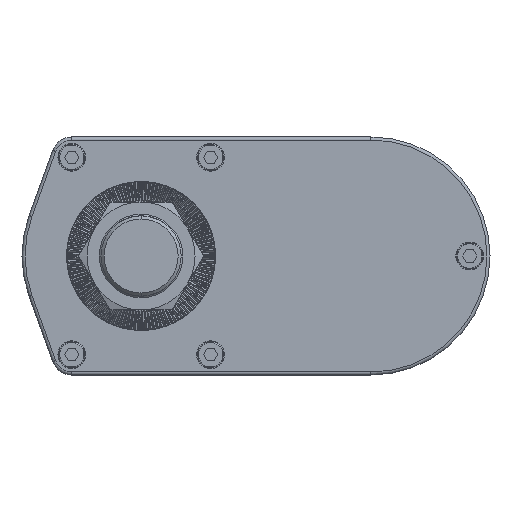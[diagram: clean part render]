
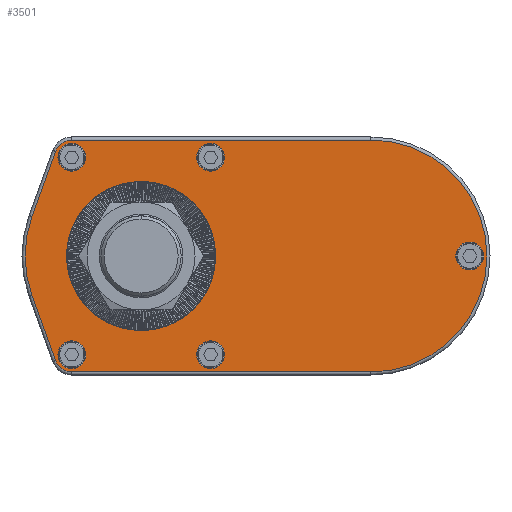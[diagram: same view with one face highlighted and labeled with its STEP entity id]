
A CAD part, left-side view. The second image highlights one B-rep face of the part: STEP entity #3501.
In plain terms, the highlighted planar face has unit normal (-1, 0, 0).
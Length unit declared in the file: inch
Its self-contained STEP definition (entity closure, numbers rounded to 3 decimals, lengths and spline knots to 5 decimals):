
#3501=ADVANCED_FACE('',(#7748,#7749,#7750,#7751,#7752,#7753,#7754),#7755,.F.);
#7748=FACE_BOUND('',#12982,.T.);
#7749=FACE_BOUND('',#12983,.T.);
#7750=FACE_BOUND('',#12984,.T.);
#7751=FACE_BOUND('',#12985,.T.);
#7752=FACE_BOUND('',#12986,.T.);
#7753=FACE_BOUND('',#12987,.T.);
#7754=FACE_OUTER_BOUND('',#12988,.T.);
#7755=PLANE('',#12989);
#12982=EDGE_LOOP('',(#23245,#23246));
#12983=EDGE_LOOP('',(#23247,#23248));
#12984=EDGE_LOOP('',(#23249,#23250));
#12985=EDGE_LOOP('',(#23251,#23252));
#12986=EDGE_LOOP('',(#23253,#23254));
#12987=EDGE_LOOP('',(#23255,#23256));
#12988=EDGE_LOOP('',(#23257,#23258,#23259,#23260,#23261,#23262,#23263,#23264));
#12989=AXIS2_PLACEMENT_3D('',#23265,#23266,#23267);
#23245=ORIENTED_EDGE('',*,*,#34001,.F.);
#23246=ORIENTED_EDGE('',*,*,#34002,.F.);
#23247=ORIENTED_EDGE('',*,*,#31767,.T.);
#23248=ORIENTED_EDGE('',*,*,#31821,.T.);
#23249=ORIENTED_EDGE('',*,*,#34003,.T.);
#23250=ORIENTED_EDGE('',*,*,#31846,.T.);
#23251=ORIENTED_EDGE('',*,*,#32815,.T.);
#23252=ORIENTED_EDGE('',*,*,#30496,.T.);
#23253=ORIENTED_EDGE('',*,*,#34004,.T.);
#23254=ORIENTED_EDGE('',*,*,#34005,.T.);
#23255=ORIENTED_EDGE('',*,*,#34006,.T.);
#23256=ORIENTED_EDGE('',*,*,#33073,.T.);
#23257=ORIENTED_EDGE('',*,*,#33621,.T.);
#23258=ORIENTED_EDGE('',*,*,#34007,.T.);
#23259=ORIENTED_EDGE('',*,*,#33814,.T.);
#23260=ORIENTED_EDGE('',*,*,#34008,.T.);
#23261=ORIENTED_EDGE('',*,*,#30362,.T.);
#23262=ORIENTED_EDGE('',*,*,#34009,.T.);
#23263=ORIENTED_EDGE('',*,*,#30993,.T.);
#23264=ORIENTED_EDGE('',*,*,#31441,.T.);
#23265=CARTESIAN_POINT('',(0.0,-2.93307,0.0));
#23266=DIRECTION('',(1.0,0.0,0.0));
#23267=DIRECTION('',(0.0,1.0,-0.0));
#30362=EDGE_CURVE('',#36280,#36278,#36281,.F.);
#30496=EDGE_CURVE('',#36514,#36512,#36515,.T.);
#30993=EDGE_CURVE('',#37356,#37360,#37362,.F.);
#31441=EDGE_CURVE('',#37360,#38094,#38096,.F.);
#31767=EDGE_CURVE('',#38612,#38616,#38618,.T.);
#31821=EDGE_CURVE('',#38616,#38612,#38703,.T.);
#31846=EDGE_CURVE('',#38740,#38738,#38741,.T.);
#32815=EDGE_CURVE('',#36512,#36514,#40203,.T.);
#33073=EDGE_CURVE('',#40575,#40573,#40576,.T.);
#33621=EDGE_CURVE('',#38094,#41327,#41329,.F.);
#33814=EDGE_CURVE('',#41583,#41581,#41584,.F.);
#34001=EDGE_CURVE('',#41820,#41821,#41822,.F.);
#34002=EDGE_CURVE('',#41821,#41820,#41823,.F.);
#34003=EDGE_CURVE('',#38738,#38740,#41824,.T.);
#34004=EDGE_CURVE('',#41825,#41826,#41827,.T.);
#34005=EDGE_CURVE('',#41826,#41825,#41828,.T.);
#34006=EDGE_CURVE('',#40573,#40575,#41829,.T.);
#34007=EDGE_CURVE('',#41327,#41583,#41830,.F.);
#34008=EDGE_CURVE('',#41581,#36280,#41831,.F.);
#34009=EDGE_CURVE('',#36278,#37356,#41832,.F.);
#36278=VERTEX_POINT('',#44539);
#36280=VERTEX_POINT('',#44541);
#36281=CIRCLE('',#44542,1.48031);
#36512=VERTEX_POINT('',#44844);
#36514=VERTEX_POINT('',#44847);
#36515=CIRCLE('',#44848,0.17717);
#37356=VERTEX_POINT('',#45967);
#37360=VERTEX_POINT('',#45971);
#37362=CIRCLE('',#45973,0.22047);
#38094=VERTEX_POINT('',#46991);
#38096=LINE('',#46993,#46994);
#38612=VERTEX_POINT('',#47733);
#38616=VERTEX_POINT('',#47738);
#38618=CIRCLE('',#47741,0.17717);
#38703=CIRCLE('',#47861,0.17717);
#38738=VERTEX_POINT('',#47906);
#38740=VERTEX_POINT('',#47909);
#38741=CIRCLE('',#47910,0.17717);
#40203=CIRCLE('',#49917,0.17717);
#40573=VERTEX_POINT('',#50414);
#40575=VERTEX_POINT('',#50417);
#40576=CIRCLE('',#50418,0.17717);
#41327=VERTEX_POINT('',#51451);
#41329=CIRCLE('',#51453,1.48031);
#41581=VERTEX_POINT('',#51779);
#41583=VERTEX_POINT('',#51781);
#41584=CIRCLE('',#51782,0.22047);
#41820=VERTEX_POINT('',#52114);
#41821=VERTEX_POINT('',#52115);
#41822=CIRCLE('',#52116,0.94882);
#41823=CIRCLE('',#52117,0.94882);
#41824=CIRCLE('',#52118,0.17717);
#41825=VERTEX_POINT('',#52119);
#41826=VERTEX_POINT('',#52120);
#41827=CIRCLE('',#52121,0.17717);
#41828=CIRCLE('',#52122,0.17717);
#41829=CIRCLE('',#52123,0.17717);
#41830=LINE('',#52124,#52125);
#41831=LINE('',#52126,#52127);
#41832=LINE('',#52128,#52129);
#44539=CARTESIAN_POINT('',(0.0,-2.93307,1.48031));
#44541=CARTESIAN_POINT('',(0.0,-2.93307,-1.48031));
#44542=AXIS2_PLACEMENT_3D('',#54957,#54958,#54959);
#44844=CARTESIAN_POINT('',(0.0,-0.8874,-1.43701));
#44847=CARTESIAN_POINT('',(0.0,-0.8874,-1.08268));
#44848=AXIS2_PLACEMENT_3D('',#55134,#55135,#55136);
#45967=CARTESIAN_POINT('',(0.0,0.88425,1.48031));
#45971=CARTESIAN_POINT('',(0.0,1.0916,1.33479));
#45973=AXIS2_PLACEMENT_3D('',#55793,#55794,#55795);
#46991=CARTESIAN_POINT('',(0.0,1.39217,0.50319));
#46993=CARTESIAN_POINT('',(0.0,1.39217,0.50319));
#46994=VECTOR('',#56338,39.37008);
#47733=CARTESIAN_POINT('',(0.0,-4.19449,-0.17717));
#47738=CARTESIAN_POINT('',(0.0,-4.19449,0.17717));
#47741=AXIS2_PLACEMENT_3D('',#56705,#56706,#56707);
#47861=AXIS2_PLACEMENT_3D('',#56758,#56759,#56760);
#47906=CARTESIAN_POINT('',(0.0,0.88425,1.08268));
#47909=CARTESIAN_POINT('',(0.0,0.88425,1.43701));
#47910=AXIS2_PLACEMENT_3D('',#56793,#56794,#56795);
#49917=AXIS2_PLACEMENT_3D('',#57960,#57961,#57962);
#50414=CARTESIAN_POINT('',(0.0,0.88425,-1.43701));
#50417=CARTESIAN_POINT('',(0.0,0.88425,-1.08268));
#50418=AXIS2_PLACEMENT_3D('',#58315,#58316,#58317);
#51451=CARTESIAN_POINT('',(0.0,1.39217,-0.50319));
#51453=AXIS2_PLACEMENT_3D('',#58997,#58998,#58999);
#51779=CARTESIAN_POINT('',(0.0,0.88425,-1.48031));
#51781=CARTESIAN_POINT('',(0.0,1.0916,-1.33479));
#51782=AXIS2_PLACEMENT_3D('',#59280,#59281,#59282);
#52114=CARTESIAN_POINT('',(0.0,0.0,-0.94882));
#52115=CARTESIAN_POINT('',(0.0,0.,0.94882));
#52116=AXIS2_PLACEMENT_3D('',#59466,#59467,#59468);
#52117=AXIS2_PLACEMENT_3D('',#59469,#59470,#59471);
#52118=AXIS2_PLACEMENT_3D('',#59472,#59473,#59474);
#52119=CARTESIAN_POINT('',(0.0,-0.8874,1.08268));
#52120=CARTESIAN_POINT('',(0.0,-0.8874,1.43701));
#52121=AXIS2_PLACEMENT_3D('',#59475,#59476,#59477);
#52122=AXIS2_PLACEMENT_3D('',#59478,#59479,#59480);
#52123=AXIS2_PLACEMENT_3D('',#59481,#59482,#59483);
#52124=CARTESIAN_POINT('',(0.0,1.0916,-1.33479));
#52125=VECTOR('',#59484,39.37008);
#52126=CARTESIAN_POINT('',(0.0,-2.93307,-1.48031));
#52127=VECTOR('',#59485,39.37008);
#52128=CARTESIAN_POINT('',(0.0,0.88425,1.48031));
#52129=VECTOR('',#59486,39.37008);
#54957=CARTESIAN_POINT('',(0.0,-2.93307,0.0));
#54958=DIRECTION('',(1.0,0.0,0.0));
#54959=DIRECTION('',(0.0,0.0,-1.0));
#55134=CARTESIAN_POINT('',(0.0,-0.8874,-1.25984));
#55135=DIRECTION('',(1.0,0.0,0.0));
#55136=DIRECTION('',(0.0,0.0,-1.0));
#55793=CARTESIAN_POINT('',(0.0,0.88425,1.25984));
#55794=DIRECTION('',(1.0,0.0,0.0));
#55795=DIRECTION('',(0.0,0.0,-1.0));
#56338=DIRECTION('',(0.0,-0.34,0.94));
#56705=CARTESIAN_POINT('',(0.0,-4.19449,0.0));
#56706=DIRECTION('',(1.0,0.0,0.0));
#56707=DIRECTION('',(0.0,0.0,-1.0));
#56758=CARTESIAN_POINT('',(0.0,-4.19449,0.0));
#56759=DIRECTION('',(1.0,0.0,0.0));
#56760=DIRECTION('',(0.0,0.0,-1.0));
#56793=CARTESIAN_POINT('',(0.0,0.88425,1.25984));
#56794=DIRECTION('',(1.0,0.0,0.0));
#56795=DIRECTION('',(0.0,0.0,-1.0));
#57960=CARTESIAN_POINT('',(0.0,-0.8874,-1.25984));
#57961=DIRECTION('',(1.0,0.0,0.0));
#57962=DIRECTION('',(0.0,0.0,-1.0));
#58315=CARTESIAN_POINT('',(0.0,0.88425,-1.25984));
#58316=DIRECTION('',(1.0,0.0,0.0));
#58317=DIRECTION('',(0.0,0.0,-1.0));
#58997=CARTESIAN_POINT('',(0.0,0.,0.0));
#58998=DIRECTION('',(1.0,0.0,0.0));
#58999=DIRECTION('',(0.0,0.0,-1.0));
#59280=CARTESIAN_POINT('',(0.0,0.88425,-1.25984));
#59281=DIRECTION('',(1.0,0.0,0.0));
#59282=DIRECTION('',(0.0,0.0,-1.0));
#59466=CARTESIAN_POINT('',(0.0,0.0,0.0));
#59467=DIRECTION('',(1.0,0.0,0.0));
#59468=DIRECTION('',(0.0,0.0,-1.0));
#59469=CARTESIAN_POINT('',(0.0,0.0,0.0));
#59470=DIRECTION('',(1.0,0.0,0.0));
#59471=DIRECTION('',(0.0,0.0,-1.0));
#59472=CARTESIAN_POINT('',(0.0,0.88425,1.25984));
#59473=DIRECTION('',(1.0,0.0,0.0));
#59474=DIRECTION('',(0.0,0.0,-1.0));
#59475=CARTESIAN_POINT('',(0.0,-0.8874,1.25984));
#59476=DIRECTION('',(1.0,0.0,0.0));
#59477=DIRECTION('',(0.0,0.0,-1.0));
#59478=CARTESIAN_POINT('',(0.0,-0.8874,1.25984));
#59479=DIRECTION('',(1.0,0.0,0.0));
#59480=DIRECTION('',(0.0,0.0,-1.0));
#59481=CARTESIAN_POINT('',(0.0,0.88425,-1.25984));
#59482=DIRECTION('',(1.0,0.0,0.0));
#59483=DIRECTION('',(0.0,0.0,-1.0));
#59484=DIRECTION('',(0.0,0.34,0.94));
#59485=DIRECTION('',(0.0,1.0,0.0));
#59486=DIRECTION('',(0.0,-1.0,0.0));
